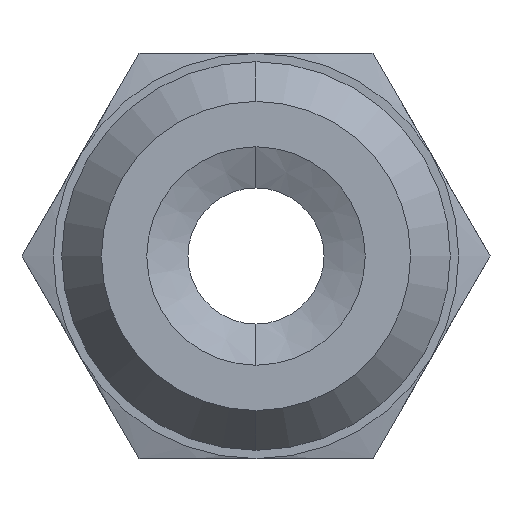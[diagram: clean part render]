
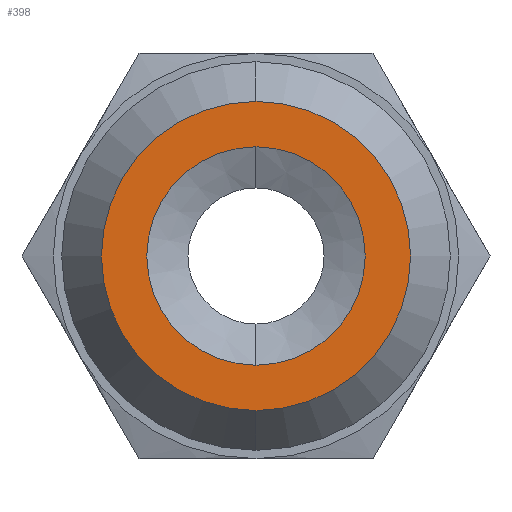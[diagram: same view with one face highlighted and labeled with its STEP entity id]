
A CAD part, left-side view. The second image highlights one B-rep face of the part: STEP entity #398.
In plain terms, the highlighted planar face has unit normal (-1, 0, 0).
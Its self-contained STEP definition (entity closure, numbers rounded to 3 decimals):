
#397 = EDGE_CURVE ( 'NONE', #483, #482, #1474, .T. ) ;
#398 = ADVANCED_FACE ( 'NONE', ( #1469, #1468 ), #1467, .T. ) ;
#399 = EDGE_LOOP ( 'NONE', ( #400, #401 ) ) ;
#400 = ORIENTED_EDGE ( 'NONE', *, *, #397, .F. ) ;
#401 = ORIENTED_EDGE ( 'NONE', *, *, #450, .F. ) ;
#402 = EDGE_LOOP ( 'NONE', ( #462, #464 ) ) ;
#436 = EDGE_CURVE ( 'NONE', #437, #438, #1506, .T. ) ;
#437 = VERTEX_POINT ( 'NONE', #1501 ) ;
#438 = VERTEX_POINT ( 'NONE', #1500 ) ;
#450 = EDGE_CURVE ( 'NONE', #482, #483, #1448, .T. ) ;
#462 = ORIENTED_EDGE ( 'NONE', *, *, #463, .T. ) ;
#463 = EDGE_CURVE ( 'NONE', #438, #437, #1422, .T. ) ;
#464 = ORIENTED_EDGE ( 'NONE', *, *, #436, .T. ) ;
#482 = VERTEX_POINT ( 'NONE', #1392 ) ;
#483 = VERTEX_POINT ( 'NONE', #1391 ) ;
#1391 = CARTESIAN_POINT ( 'NONE',  ( -14.2, 0., 3.85 ) ) ;
#1392 = CARTESIAN_POINT ( 'NONE',  ( -14.2, 0., -3.85 ) ) ;
#1418 = DIRECTION ( 'NONE',  ( 0., 0., 1. ) ) ;
#1419 = DIRECTION ( 'NONE',  ( -1., 0., 0. ) ) ;
#1420 = CARTESIAN_POINT ( 'NONE',  ( -14.2, 0., 0. ) ) ;
#1421 = AXIS2_PLACEMENT_3D ( 'NONE', #1420, #1419, #1418 ) ;
#1422 = CIRCLE ( 'NONE', #1421, 5.45 ) ;
#1444 = DIRECTION ( 'NONE',  ( 0., 0., 1. ) ) ;
#1445 = DIRECTION ( 'NONE',  ( -1., 0., 0. ) ) ;
#1446 = CARTESIAN_POINT ( 'NONE',  ( -14.2, 0., 0. ) ) ;
#1447 = AXIS2_PLACEMENT_3D ( 'NONE', #1446, #1445, #1444 ) ;
#1448 = CIRCLE ( 'NONE', #1447, 3.85 ) ;
#1462 = DIRECTION ( 'NONE',  ( 0., 0., 1. ) ) ;
#1463 = DIRECTION ( 'NONE',  ( -1., 0., 0. ) ) ;
#1464 = AXIS2_PLACEMENT_3D ( 'NONE', #1466, #1463, #1462 ) ;
#1466 = CARTESIAN_POINT ( 'NONE',  ( -14.2, 0., 0. ) ) ;
#1467 = PLANE ( 'NONE',  #1464 ) ;
#1468 = FACE_OUTER_BOUND ( 'NONE', #402, .T. ) ;
#1469 = FACE_BOUND ( 'NONE', #399, .T. ) ;
#1470 = DIRECTION ( 'NONE',  ( 0., 0., 1. ) ) ;
#1471 = DIRECTION ( 'NONE',  ( -1., 0., 0. ) ) ;
#1472 = CARTESIAN_POINT ( 'NONE',  ( -14.2, 0., 0. ) ) ;
#1473 = AXIS2_PLACEMENT_3D ( 'NONE', #1472, #1471, #1470 ) ;
#1474 = CIRCLE ( 'NONE', #1473, 3.85 ) ;
#1500 = CARTESIAN_POINT ( 'NONE',  ( -14.2, 0., 5.45 ) ) ;
#1501 = CARTESIAN_POINT ( 'NONE',  ( -14.2, 0., -5.45 ) ) ;
#1502 = DIRECTION ( 'NONE',  ( 0., 0., 1. ) ) ;
#1503 = DIRECTION ( 'NONE',  ( -1., 0., 0. ) ) ;
#1504 = CARTESIAN_POINT ( 'NONE',  ( -14.2, 0., 0. ) ) ;
#1505 = AXIS2_PLACEMENT_3D ( 'NONE', #1504, #1503, #1502 ) ;
#1506 = CIRCLE ( 'NONE', #1505, 5.45 ) ;
